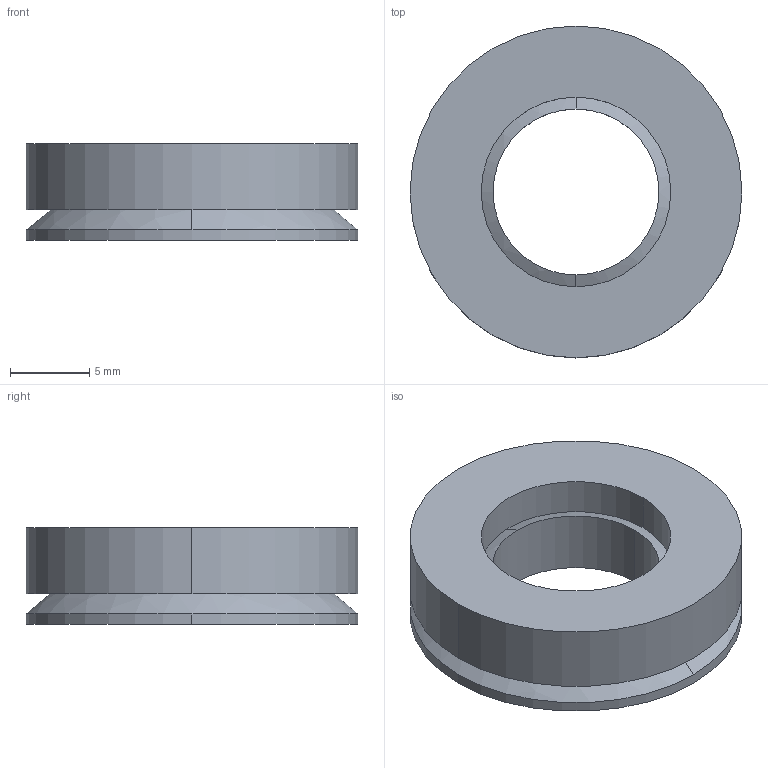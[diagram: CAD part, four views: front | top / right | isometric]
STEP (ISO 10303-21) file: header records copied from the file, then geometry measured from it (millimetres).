
FILE_DESCRIPTION (( 'STEP AP214' ), '1' );
FILE_NAME ('PLF01-28.STEP', '2004-09-02T07:01:43', ( 'Mitarbeiter' ), ( 'Firma' ), 'SwSTEP 2.0', 'SolidWorks 2001287', '' );
FILE_SCHEMA (( 'AUTOMOTIVE_DESIGN' ));
Length unit declared in the file: millimetre
Products named in the file (3): PLF01-28; SocketWasher; BallWasher
Assembly tree (2 placements, depth 2):
  PLF01-28
    BallWasher
    SocketWasher
Bounding box: 21 x 21 x 6.13 mm (x, y, z)
Volume: 1468.9 mm3; surface area: 1605.3 mm2
Topology: 2 solids, 2 shells, 15 faces, 34 edges, 22 vertices
Faces by surface type: cylinder 8, plane 3, sphere 2, cone 2
Entity records: 522 total; most frequent: DIRECTION 96, CARTESIAN_POINT 75, ORIENTED_EDGE 68, AXIS2_PLACEMENT_3D 43, EDGE_CURVE 34, CIRCLE 24, VERTEX_POINT 22, EDGE_LOOP 18
